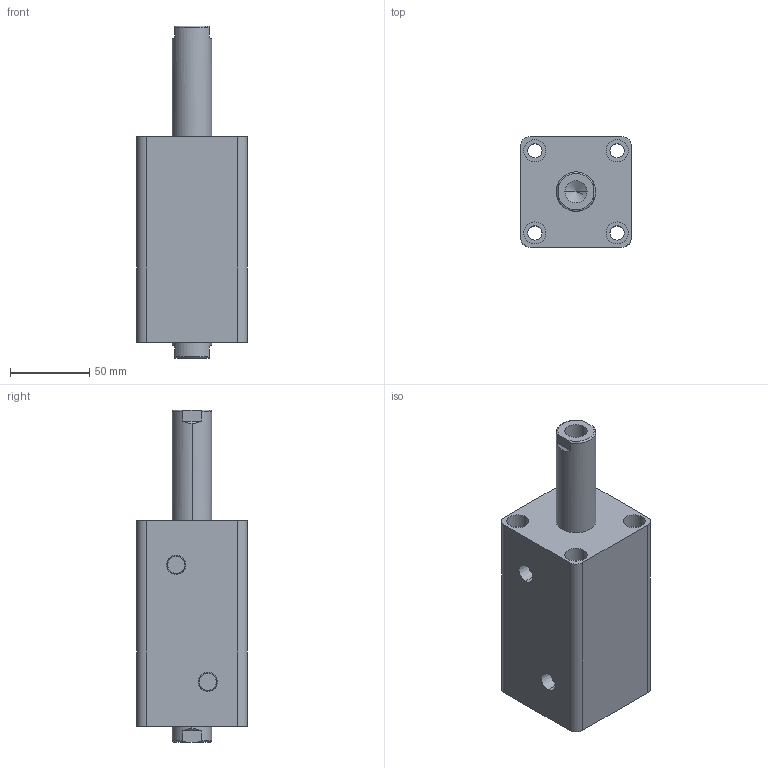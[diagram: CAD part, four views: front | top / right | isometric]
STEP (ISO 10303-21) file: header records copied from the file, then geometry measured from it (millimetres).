
FILE_DESCRIPTION (( 'STEP AP203' ), '1' );
FILE_NAME ('HTB-SW40-60N.STEP', '2019-10-07T09:09:30', ( '微软用户' ), ( '微软中国' ), 'SwSTEP 2.0', 'SolidWorks 2012', '' );
FILE_SCHEMA (( 'CONFIG_CONTROL_DESIGN' ));
Length unit declared in the file: millimetre
Products named in the file (3): HTB-SW40-60N; HTB-SW40-60N活塞杆; HTB-SW40-60掛极
Assembly tree (2 placements, depth 2):
  HTB-SW40-60N
    HTB-SW40-60掛极
    HTB-SW40-60N活塞杆
Bounding box: 70 x 70 x 210 mm (x, y, z)
Volume: 578338.4 mm3; surface area: 96422.6 mm2
Topology: 2 solids, 2 shells, 100 faces, 228 edges, 146 vertices
Faces by surface type: cylinder 48, plane 32, torus 12, cone 8
Entity records: 3237 total; most frequent: CARTESIAN_POINT 595, DIRECTION 542, ORIENTED_EDGE 448, AXIS2_PLACEMENT_3D 229, EDGE_CURVE 224, VERTEX_POINT 146, EDGE_LOOP 128, CIRCLE 124
